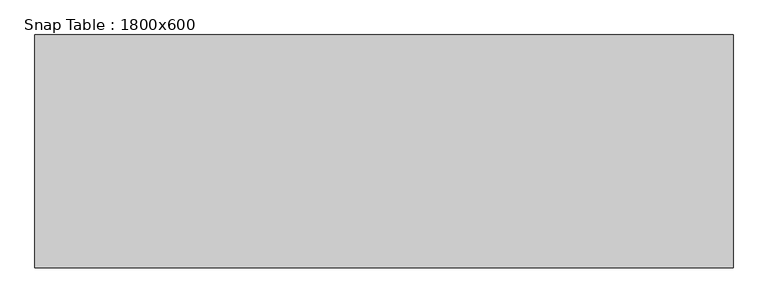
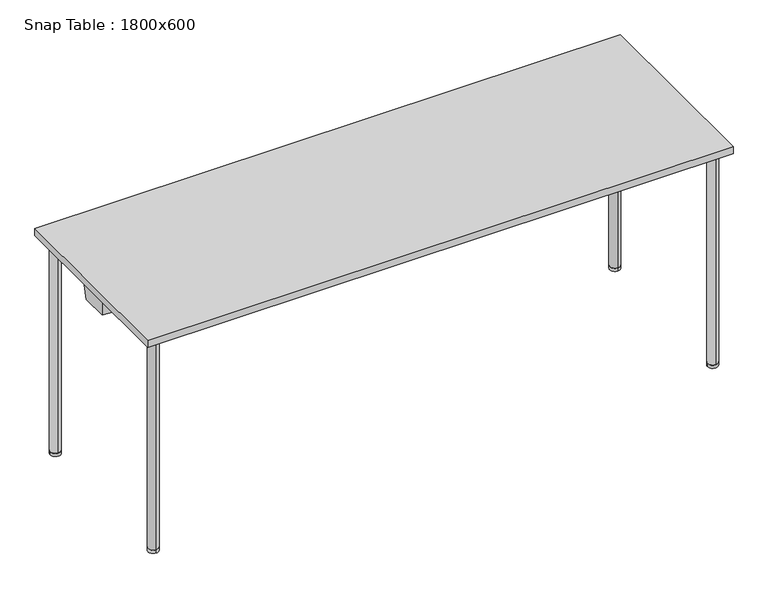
"""IFC4 building model written with IfcOpenShell, lengths in millimetres: furniture geometry, Snap Table : 1800x600."""

import ifcopenshell
import ifcopenshell.guid

model = None  # the IFC model being written
_history = None  # IfcOwnerHistory: only IFC2X3 demands one
_inside = {}  # id of a spatial element -> (the spatial element, [elements in it])
_under = {}  # id of a project, library or spatial element -> (it, [spatial elements below it])
_declared = {}  # id of a project -> (the project, [libraries it declares])
_typed = {}  # id of a type object -> (the type object, [elements of that type])
_made_of = {}  # id of a material, layer set ... -> (it, [elements and type objects made of it])


def new_model(schema):
    """Start an empty IFC model of exactly this schema.

    Asked for "IFC4X3", IfcOpenShell would pick the latest addendum, in which some entities
    have other attributes; the version numbers below select the first issue.
    IFC2X3 requires an IfcOwnerHistory on every rooted entity: one is made here for all.
    """
    global model, _history
    if schema == "IFC4X3":
        model = ifcopenshell.file(schema_version=(4, 3, 0, 0))
    else:
        model = ifcopenshell.file(schema=schema)
    _inside.clear()
    _under.clear()
    _declared.clear()
    _typed.clear()
    _made_of.clear()
    _history = None
    if model.schema == "IFC2X3":
        org = make("IfcOrganization", Name="unknown")
        user = make(
            "IfcPersonAndOrganization",
            ThePerson=make("IfcPerson", FamilyName="unknown"),
            TheOrganization=org,
        )
        app = make(
            "IfcApplication",
            ApplicationDeveloper=org,
            Version="unknown",
            ApplicationFullName="unknown",
            ApplicationIdentifier="unknown",
        )
        _history = make(
            "IfcOwnerHistory",
            OwningUser=user,
            OwningApplication=app,
            ChangeAction="ADDED",
            CreationDate=0,
        )
    return model


def make(cls, **values):
    """One entity of the class cls with the attributes given. An attribute that is None is left unset."""
    return model.create_entity(
        cls, **{name: value for name, value in values.items() if value is not None}
    )


def rooted(cls, **values):
    """An entity with a GlobalId (a new one), such as an element, a storey or a relation."""
    return make(cls, GlobalId=ifcopenshell.guid.new(), OwnerHistory=_history, **values)


def si_unit(unit_type, name, prefix=None):
    """IfcSIUnit, for example si_unit("LENGTHUNIT", "METRE", prefix="MILLI")."""
    return make("IfcSIUnit", UnitType=unit_type, Prefix=prefix, Name=name)


def assignment(units):
    """IfcUnitAssignment: the units of a project."""
    return None if units is None else make("IfcUnitAssignment", Units=units)


def point(xyz):
    """IfcCartesianPoint."""
    return None if xyz is None else make("IfcCartesianPoint", Coordinates=xyz)


def direction(xyz):
    """IfcDirection."""
    return None if xyz is None else make("IfcDirection", DirectionRatios=xyz)


def frame(location, z_axis=None, x_axis=None):
    """IfcAxis2Placement3D, a coordinate frame: its origin and axes. An axis left out is left unset."""
    return make(
        "IfcAxis2Placement3D",
        Location=point(location),
        Axis=direction(z_axis),
        RefDirection=direction(x_axis),
    )


def frame_2d(location, x_axis=None):
    """IfcAxis2Placement2D, a coordinate frame in the plane: its origin and x axis."""
    return make(
        "IfcAxis2Placement2D", Location=point(location), RefDirection=direction(x_axis)
    )


def origin():
    """The frame at (0, 0, 0) with its axes left unset."""
    return frame((0.0, 0.0, 0.0))


def origin_with_axes():
    """The frame at (0, 0, 0) with the z axis (0, 0, 1) and the x axis (1, 0, 0) written out."""
    return frame((0.0, 0.0, 0.0), z_axis=(0.0, 0.0, 1.0), x_axis=(1.0, 0.0, 0.0))


def place(relative_to, where):
    """IfcLocalPlacement: puts the frame where relative to a parent placement (None: the world)."""
    return make(
        "IfcLocalPlacement", PlacementRelTo=relative_to, RelativePlacement=where
    )


def context(
    kind, dimensions, precision=None, world=None, true_north=None, identifier=None
):
    """IfcGeometricRepresentationContext, for example the 3D "Model" context."""
    return make(
        "IfcGeometricRepresentationContext",
        ContextIdentifier=identifier,
        ContextType=kind,
        CoordinateSpaceDimension=dimensions,
        Precision=precision,
        WorldCoordinateSystem=world,
        TrueNorth=true_north,
    )


def project(units=None, contexts=None):
    """IfcProject with its units and contexts."""
    return rooted(
        "IfcProject",
        Name="project",
        RepresentationContexts=contexts,
        UnitsInContext=assignment(units),
    )


def spatial(cls, under=None, at=None, **own):
    """A site, building, storey or space (cls), placed at a placement, below another one or the project."""
    s = rooted(cls, ObjectPlacement=at, **own)
    if under is not None:
        _under.setdefault(under.id(), (under, []))[1].append(s)
    return s


def polyline(points):
    """IfcPolyline through the points."""
    return make("IfcPolyline", Points=[point(p) for p in points])


def circle_curve(where, radius):
    """IfcCircle in the frame where."""
    return make("IfcCircle", Position=where, Radius=radius)


def ellipse_curve(where, semi_axis1, semi_axis2):
    """IfcEllipse in the frame where."""
    return make(
        "IfcEllipse", Position=where, SemiAxis1=semi_axis1, SemiAxis2=semi_axis2
    )


def trimmed(basis, trim1, trim2, sense, master):
    """IfcTrimmedCurve: the piece of a basis curve between two trims."""
    return make(
        "IfcTrimmedCurve",
        BasisCurve=basis,
        Trim1=trim1,
        Trim2=trim2,
        SenseAgreement=sense,
        MasterRepresentation=master,
    )


def segment(curve, same_sense, transition):
    """IfcCompositeCurveSegment."""
    return make(
        "IfcCompositeCurveSegment",
        Transition=transition,
        SameSense=same_sense,
        ParentCurve=curve,
    )


def composite_curve(segments, self_intersect=None):
    """IfcCompositeCurve: segments joined end to end."""
    return make("IfcCompositeCurve", Segments=segments, SelfIntersect=self_intersect)


def outline(outer, holes=None, kind="AREA"):
    """IfcArbitraryClosedProfileDef: a profile drawn as a closed curve; with holes, ...WithVoids."""
    if holes is None:
        return make("IfcArbitraryClosedProfileDef", ProfileType=kind, OuterCurve=outer)
    return make(
        "IfcArbitraryProfileDefWithVoids",
        ProfileType=kind,
        OuterCurve=outer,
        InnerCurves=holes,
    )


def extrude(swept, where, along, depth):
    """IfcExtrudedAreaSolid: the profile swept, set in the frame where, extruded along a direction by depth."""
    return make(
        "IfcExtrudedAreaSolid",
        SweptArea=swept,
        Position=where,
        ExtrudedDirection=direction(along),
        Depth=depth,
    )


def faces_of(points, faces, orient=None, outer=None):
    """IfcFace entities. A face is a list of loops; a loop is a list of indices into points, from 0.

    orient and outer hold one flag for each loop. By default every Orientation is true, the
    first loop of a face is its IfcFaceOuterBound and the others are IfcFaceBound.
    """
    made = []
    for i, loops in enumerate(faces):
        bounds = []
        for j, loop in enumerate(loops):
            is_outer = j == 0 if outer is None else outer[i][j]
            bounds.append(
                make(
                    "IfcFaceOuterBound" if is_outer else "IfcFaceBound",
                    Bound=make("IfcPolyLoop", Polygon=[points[k] for k in loop]),
                    Orientation=True if orient is None else orient[i][j],
                )
            )
        made.append(make("IfcFace", Bounds=bounds))
    return made


def faceted_brep(points, faces, orient=None, outer=None, voids=None):
    """IfcFacetedBrep: a solid bounded by flat faces; with voids (closed shells), ...WithVoids."""
    shared = [point(p) for p in points]
    hull = make("IfcClosedShell", CfsFaces=faces_of(shared, faces, orient, outer))
    if voids is None:
        return make("IfcFacetedBrep", Outer=hull)
    return make(
        "IfcFacetedBrepWithVoids",
        Outer=hull,
        Voids=[
            make(cls, CfsFaces=faces_of(shared, fs, o, b)) for cls, fs, o, b in voids
        ],
    )


def shape(context_of_items, identifier, shape_type, items):
    """IfcShapeRepresentation: the items that make up one representation, for example the "Body"."""
    return make(
        "IfcShapeRepresentation",
        ContextOfItems=context_of_items,
        RepresentationIdentifier=identifier,
        RepresentationType=shape_type,
        Items=items,
    )


def source(mapping_origin, context_of_items, identifier, shape_type, items):
    """IfcRepresentationMap: a shape defined once, which mapped items show again and again."""
    return make(
        "IfcRepresentationMap",
        MappingOrigin=mapping_origin,
        MappedRepresentation=shape(context_of_items, identifier, shape_type, items),
    )


def transform(
    local_origin,
    x_axis=None,
    y_axis=None,
    z_axis=None,
    scale=None,
    scale2=None,
    scale3=None,
    uniform=True,
):
    """IfcCartesianTransformationOperator3D, or its non-uniform kind. x_axis, y_axis, z_axis: its Axis1, 2, 3."""
    if uniform:
        return make(
            "IfcCartesianTransformationOperator3D",
            Axis1=direction(x_axis),
            Axis2=direction(y_axis),
            LocalOrigin=point(local_origin),
            Scale=scale,
            Axis3=direction(z_axis),
        )
    return make(
        "IfcCartesianTransformationOperator3DnonUniform",
        Axis1=direction(x_axis),
        Axis2=direction(y_axis),
        LocalOrigin=point(local_origin),
        Scale=scale,
        Axis3=direction(z_axis),
        Scale2=scale2,
        Scale3=scale3,
    )


def mapped(mapping_source, mapping_target):
    """IfcMappedItem: shows the shape of a source again, moved by a transform."""
    return make(
        "IfcMappedItem", MappingSource=mapping_source, MappingTarget=mapping_target
    )


def made_of(thing, what):
    """Note that an element or type object is made of a material, layer set ...; save() writes the relation."""
    if what is not None:
        _made_of.setdefault(what.id(), (what, []))[1].append(thing)
    return thing


def element(
    cls,
    number,
    at=None,
    inside=None,
    cuts=None,
    type_object=None,
    material=None,
    context=None,
    identifier="Body",
    shape_type=None,
    held_by="IfcProductDefinitionShape",
    body=None,
    shapes=None,
    **own,
):
    """One element of the class cls, such as IfcWall. Its Tag is "e" and its number.

    at: its placement. inside: the storey or other place that contains it. cuts: it is an
    opening in that element (IfcRelVoidsElement). A single representation is given by context,
    identifier, shape_type and body (its items); several are given by shapes. held_by: the class
    of the entity that holds the representations. save() writes the other relations.
    """
    e = rooted(cls, Tag="e%d" % number, ObjectPlacement=at, **own)
    if body is not None:
        shapes = [shape(context, identifier, shape_type, body)]
    if shapes is not None:
        e.Representation = make(held_by, Representations=shapes)
    if inside is not None:
        _inside.setdefault(inside.id(), (inside, []))[1].append(e)
    if cuts is not None:
        rooted(
            "IfcRelVoidsElement", RelatingBuildingElement=cuts, RelatedOpeningElement=e
        )
    if type_object is not None:
        _typed.setdefault(type_object.id(), (type_object, []))[1].append(e)
    return made_of(e, material)


def aggregate(whole, parts):
    """IfcRelAggregates: a whole, such as a stair, and the parts it consists of."""
    return rooted("IfcRelAggregates", RelatingObject=whole, RelatedObjects=parts)


def save(model, path):
    """Write the relations noted so far, then the file.

    IfcRelAggregates (storeys below a building ...), IfcRelContainedInSpatialStructure (elements
    in a storey), IfcRelDefinesByType, IfcRelAssociatesMaterial and IfcRelDeclares: one each for
    every whole, place, type object, material and project.
    """
    for whole, parts in _under.values():
        aggregate(whole, parts)
    for where, things in _inside.values():
        rooted(
            "IfcRelContainedInSpatialStructure",
            RelatedElements=things,
            RelatingStructure=where,
        )
    for kind, things in _typed.values():
        rooted("IfcRelDefinesByType", RelatedObjects=things, RelatingType=kind)
    for what, things in _made_of.values():
        rooted("IfcRelAssociatesMaterial", RelatedObjects=things, RelatingMaterial=what)
    for by, libraries in _declared.values():
        rooted("IfcRelDeclares", RelatingContext=by, RelatedDefinitions=libraries)
    model.write(path)


def plane_surface(at):
    """IfcPlane: the flat surface through the origin of the frame at, square to its z axis."""
    return make("IfcPlane", Position=at)


def cylinder_surface(at, radius):
    """IfcCylindricalSurface: all points at the distance radius from the z axis of the frame at."""
    return make("IfcCylindricalSurface", Position=at, Radius=radius)


def revolved_surface(curve, axis_point, axis_direction):
    """IfcSurfaceOfRevolution: the curve turned about the line through axis_point along axis_direction."""
    return make(
        "IfcSurfaceOfRevolution",
        SweptCurve=make("IfcArbitraryOpenProfileDef", ProfileType="CURVE", Curve=curve),
        AxisPosition=make("IfcAxis1Placement", Location=point(axis_point), Axis=direction(axis_direction)),
    )


def advanced_brep(points, edges, surfaces, faces):
    """IfcAdvancedBrep: a solid bounded by faces that lie on surfaces and meet in shared edges.

    An edge is (start, end): straight between two places in points (the first is 0);
    or (start, end, curve); or (start, end, curve, False) where it runs against its curve.
    A face is (place in surfaces, loops), or (place, loops, False) where it looks against
    its surface's normal. A loop lists edges by number (the first is 1), with a minus sign
    where the edge is run from its end to its start. The first loop is the outer one.
    """
    corners = [point(p) for p in points]
    vertices = [make("IfcVertexPoint", VertexGeometry=c) for c in corners]
    made = []
    for start, end, *more in edges:
        made.append(
            make(
                "IfcEdgeCurve",
                EdgeStart=vertices[start],
                EdgeEnd=vertices[end],
                EdgeGeometry=more[0] if more else make("IfcPolyline", Points=[corners[start], corners[end]]),
                SameSense=more[1] if len(more) > 1 else True,
            )
        )
    hull = []
    for where, loops, *sense in faces:
        bounds = []
        for j, loop in enumerate(loops):
            ring = [make("IfcOrientedEdge", EdgeElement=made[abs(k) - 1], Orientation=k > 0) for k in loop]
            bounds.append(
                make(
                    "IfcFaceOuterBound" if j == 0 else "IfcFaceBound",
                    Bound=make("IfcEdgeLoop", EdgeList=ring),
                    Orientation=True,
                )
            )
        hull.append(make("IfcAdvancedFace", Bounds=bounds, FaceSurface=surfaces[where], SameSense=sense[0] if sense else True))
    return make("IfcAdvancedBrep", Outer=make("IfcClosedShell", CfsFaces=hull))


def snap_table_1800x600_5f449a30(model_context):
    return source(origin(), model_context, "Body", "SolidModel", [
        extrude(outline(composite_curve([segment(trimmed(circle_curve(frame_2d((860.0, -260.0)), 16.0), [point((876.0, -260.0))], [point((844.0, -260.0))], False, "CARTESIAN"), True, "CONTINUOUS"), segment(trimmed(circle_curve(frame_2d((860.0, -260.0)), 16.0), [point((844.0, -260.0))], [point((876.0, -260.0))], False, "CARTESIAN"), True, "CONTINUOUS")], self_intersect=False)), origin_with_axes(), (0.0, 0.0, 1.0), 10.0),
        extrude(outline(composite_curve([segment(trimmed(circle_curve(frame_2d((860.0, 260.0)), 16.0), [point((860.0, 244.0))], [point((860.0, 276.0))], False, "CARTESIAN"), True, "CONTINUOUS"), segment(trimmed(circle_curve(frame_2d((860.0, 260.0)), 16.0), [point((860.0, 276.0))], [point((860.0, 244.0))], False, "CARTESIAN"), True, "CONTINUOUS")], self_intersect=False)), origin_with_axes(), (0.0, 0.0, 1.0), 10.0),
        advanced_brep(
        [(860.0, -276.0, 10.0), (860.0, -244.0, 10.0), (860.0, -276.0, 689.0), (860.0, -244.0, 657.0), (860.0, 276.0, 689.0), (860.0, 244.0, 657.0), (860.0, 276.0, 10.0), (860.0, 244.0, 10.0)],
        [
            (0, 1, circle_curve(frame((860.0, -260.0, 10.0), z_axis=(0.0, 0.0, -1.0), x_axis=(0.0, 1.0, 0.0)), 16.0)),
            (1, 0, circle_curve(frame((860.0, -260.0, 10.0), z_axis=(0.0, 0.0, -1.0), x_axis=(0.0, 1.0, 0.0)), 16.0)),
            (0, 2),
            (2, 3, ellipse_curve(frame((860.0, -260.0, 673.0), z_axis=(0.0, -0.7071067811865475, -0.7071067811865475), x_axis=(0.0, 0.7071067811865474, -0.7071067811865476)), 22.627417, 16.0)),
            (3, 1),
            (3, 2, ellipse_curve(frame((860.0, -260.0, 673.0), z_axis=(0.0, -0.7071067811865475, -0.7071067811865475), x_axis=(0.0, 0.7071067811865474, -0.7071067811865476)), 22.627417, 16.0)),
            (2, 4),
            (4, 5, ellipse_curve(frame((860.0, 260.0, 673.0), z_axis=(0.0, -0.7071067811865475, 0.7071067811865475), x_axis=(0.0, -0.7071067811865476, -0.7071067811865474)), 22.627417, 16.0)),
            (5, 3),
            (5, 4, ellipse_curve(frame((860.0, 260.0, 673.0), z_axis=(0.0, -0.7071067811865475, 0.7071067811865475), x_axis=(0.0, -0.7071067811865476, -0.7071067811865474)), 22.627417, 16.0)),
            (6, 7, circle_curve(frame((860.0, 260.0, 10.0), z_axis=(0.0, 0.0, -1.0), x_axis=(0.0, -1.0, 0.0)), 16.0)),
            (7, 6, circle_curve(frame((860.0, 260.0, 10.0), z_axis=(0.0, 0.0, -1.0), x_axis=(0.0, -1.0, 0.0)), 16.0)),
            (4, 6),
            (7, 5),
        ],
        [
            plane_surface(frame((860.0, -260.0, 10.0), z_axis=(0.0, 0.0, -1.0), x_axis=(-1.0, 0.0, 0.0))),
            cylinder_surface(frame((860.0, -260.0, 10.0), z_axis=(0.0, 0.0, -1.0), x_axis=(0.0, 1.0, 0.0)), 16.0),
            cylinder_surface(frame((860.0, -260.0, 673.0), z_axis=(0.0, -1.0, 0.0), x_axis=(0.0, 0.0, -1.0)), 16.0),
            plane_surface(frame((860.0, 260.0, 10.0), z_axis=(0.0, 0.0, -1.0), x_axis=(-1.0, 0.0, 0.0))),
            cylinder_surface(frame((860.0, 260.0, 673.0), z_axis=(0.0, 0.0, 1.0), x_axis=(0.0, -1.0, 0.0)), 16.0),
        ],
        [
            (0, [[1, 2]]),
            (1, [[-1, 3, 4, 5]]),
            (1, [[-2, -5, 6, -3]]),
            (2, [[-4, 7, 8, 9]]),
            (2, [[-6, -9, 10, -7]]),
            (3, [[11, 12]]),
            (4, [[-8, 13, -12, 14]]),
            (4, [[-10, -14, -11, -13]]),
        ],
    ),
        extrude(outline(composite_curve([segment(trimmed(circle_curve(frame_2d((-860.0470276, 260.0)), 16.0), [point((-876.0470276, 260.0))], [point((-844.0470276, 260.0))], False, "CARTESIAN"), True, "CONTINUOUS"), segment(trimmed(circle_curve(frame_2d((-860.0470276, 260.0)), 16.0), [point((-844.0470276, 260.0))], [point((-876.0470276, 260.0))], False, "CARTESIAN"), True, "CONTINUOUS")], self_intersect=False)), origin_with_axes(), (0.0, 0.0, 1.0), 10.0),
        extrude(outline(composite_curve([segment(trimmed(circle_curve(frame_2d((-860.0470276, -260.0)), 16.0), [point((-860.0470276, -244.0))], [point((-860.0470276, -276.0))], False, "CARTESIAN"), True, "CONTINUOUS"), segment(trimmed(circle_curve(frame_2d((-860.0470276, -260.0)), 16.0), [point((-860.0470276, -276.0))], [point((-860.0470276, -244.0))], False, "CARTESIAN"), True, "CONTINUOUS")], self_intersect=False)), origin_with_axes(), (0.0, 0.0, 1.0), 10.0),
        advanced_brep(
        [(-860.0470276, 276.0, 10.0), (-860.0470276, 244.0, 10.0), (-860.0470276, 276.0, 689.0), (-860.0470276, 244.0, 657.0), (-860.0470276, -276.0, 689.0), (-860.0470276, -244.0, 657.0), (-860.0470276, -276.0, 10.0), (-860.0470276, -244.0, 10.0)],
        [
            (0, 1, circle_curve(frame((-860.0470276, 260.0, 10.0), z_axis=(0.0, 0.0, -1.0), x_axis=(0.0, -1.0, 0.0)), 16.0)),
            (1, 0, circle_curve(frame((-860.0470276, 260.0, 10.0), z_axis=(0.0, 0.0, -1.0), x_axis=(0.0, -1.0, 0.0)), 16.0)),
            (0, 2),
            (2, 3, ellipse_curve(frame((-860.0470276, 260.0, 673.0), z_axis=(0.0, 0.7071067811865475, -0.7071067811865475), x_axis=(0.0, -0.7071067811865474, -0.7071067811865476)), 22.627417, 16.0)),
            (3, 1),
            (3, 2, ellipse_curve(frame((-860.0470276, 260.0, 673.0), z_axis=(0.0, 0.7071067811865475, -0.7071067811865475), x_axis=(0.0, -0.7071067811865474, -0.7071067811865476)), 22.627417, 16.0)),
            (2, 4),
            (4, 5, ellipse_curve(frame((-860.0470276, -260.0, 673.0), z_axis=(0.0, 0.7071067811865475, 0.7071067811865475), x_axis=(0.0, 0.7071067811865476, -0.7071067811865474)), 22.627417, 16.0)),
            (5, 3),
            (5, 4, ellipse_curve(frame((-860.0470276, -260.0, 673.0), z_axis=(0.0, 0.7071067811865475, 0.7071067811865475), x_axis=(0.0, 0.7071067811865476, -0.7071067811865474)), 22.627417, 16.0)),
            (6, 7, circle_curve(frame((-860.0470276, -260.0, 10.0), z_axis=(0.0, 0.0, -1.0), x_axis=(0.0, 1.0, 0.0)), 16.0)),
            (7, 6, circle_curve(frame((-860.0470276, -260.0, 10.0), z_axis=(0.0, 0.0, -1.0), x_axis=(0.0, 1.0, 0.0)), 16.0)),
            (4, 6),
            (7, 5),
        ],
        [
            plane_surface(frame((-860.0470276, 260.0, 10.0), z_axis=(0.0, 0.0, -1.0), x_axis=(1.0, 0.0, 0.0))),
            cylinder_surface(frame((-860.0470276, 260.0, 10.0), z_axis=(0.0, 0.0, -1.0), x_axis=(0.0, -1.0, 0.0)), 16.0),
            cylinder_surface(frame((-860.0470276, 260.0, 673.0), z_axis=(0.0, 1.0, 0.0), x_axis=(0.0, 0.0, -1.0)), 16.0),
            plane_surface(frame((-860.0470276, -260.0, 10.0), z_axis=(0.0, 0.0, -1.0), x_axis=(1.0, 0.0, 0.0))),
            cylinder_surface(frame((-860.0470276, -260.0, 673.0), z_axis=(0.0, 0.0, 1.0), x_axis=(0.0, 1.0, 0.0)), 16.0),
        ],
        [
            (0, [[1, 2]]),
            (1, [[-1, 3, 4, 5]]),
            (1, [[-2, -5, 6, -3]]),
            (2, [[-4, 7, 8, 9]]),
            (2, [[-6, -9, 10, -7]]),
            (3, [[11, 12]]),
            (4, [[-8, 13, -12, 14]]),
            (4, [[-10, -14, -11, -13]]),
        ],
    ),
        extrude(outline(polyline([(900.0, 300.0), (900.0, -300.0), (-900.0, -300.0), (-900.0, 300.0), (900.0, 300.0)])), frame((0.0, 0.0, 698.0), z_axis=(0.0, 0.0, 1.0), x_axis=(1.0, 0.0, 0.0)), (0.0, 0.0, 1.0), 22.0),
        advanced_brep(
        [(-890.8110657, 42.2236058, 643.0), (-857.6910354, 44.5767873, 643.0), (-840.5708933, 36.0824003, 643.0), (840.5710292, 36.0824678, 643.0), (857.6910354, 44.5767873, 643.0), (890.8110657, 42.2236058, 643.0), (890.8110657, -42.2236058, 643.0), (857.6044607, -44.2417031, 643.0), (840.4018781, -36.0497649, 643.0), (-840.4020196, -36.0498323, 643.0), (-857.6044607, -44.2417031, 643.0), (-890.8110657, -42.2236058, 643.0), (-894.8110657, 48.9570516, 698.0), (-894.8110657, -48.9934252, 698.0), (-856.225892, -51.3383995, 698.0), (-834.6205129, -41.049832, 698.0), (834.6203726, -41.0497652, 698.0), (856.225892, -51.3383995, 698.0), (894.8110657, -48.9934252, 698.0), (894.8110657, 48.9570516, 698.0), (856.286594, 51.6942192, 698.0), (834.8989768, 41.0824675, 698.0), (-834.8988421, 41.0824006, 698.0), (-856.286594, 51.6942192, 698.0), (-857.2475737, -46.0789118, 657.2385232), (-876.0, -46.9489596, 673.0), (-856.4614069, -50.125999, 688.6037931), (-844.0, -41.9922101, 673.0), (857.2475737, -46.0789118, 657.2385232), (844.0, -41.9922101, 673.0), (856.4614069, -50.125999, 688.6037931), (876.0, -46.9489596, 673.0), (857.3278029, 46.4175782, 657.2247231), (876.0, 47.1037405, 673.0), (856.5261576, 50.4801582, 688.618336), (844.0, 42.0461233, 673.0), (-857.3278029, 46.4175782, 657.2247231), (-844.0, 42.0461233, 673.0), (-856.5261576, 50.4801582, 688.618336), (-876.0, 47.1037405, 673.0)],
        [
            (0, 1),
            (1, 2),
            (2, 3),
            (3, 4),
            (4, 5),
            (5, 6),
            (6, 7),
            (7, 8),
            (8, 9),
            (9, 10),
            (10, 11),
            (11, 0),
            (12, 13),
            (13, 14),
            (14, 15),
            (15, 16),
            (16, 17),
            (17, 18),
            (18, 19),
            (19, 20),
            (20, 21),
            (21, 22),
            (22, 23),
            (23, 12),
            (11, 13),
            (12, 0),
            (10, 24),
            (24, 25, ellipse_curve(frame((-860.0, -47.9213432, 673.0), z_axis=(0.060176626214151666, 0.9901710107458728, 0.12625427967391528), x_axis=(0.426028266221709, -0.13986196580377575, 0.8938336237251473)), 16.1588249, 16.0)),
            (25, 26, ellipse_curve(frame((-860.0, -47.9213432, 673.0), z_axis=(0.060176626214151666, 0.9901710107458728, 0.12625427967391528), x_axis=(0.426028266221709, -0.13986196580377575, 0.8938336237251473)), 16.1588249, 16.0)),
            (26, 14),
            (9, 15),
            (26, 27, ellipse_curve(frame((-860.0, -49.6114737, 673.0), z_axis=(-0.4265030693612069, 0.8956310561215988, 0.12625427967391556), x_axis=(-0.8587935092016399, -0.44479771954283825, 0.25422174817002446)), 17.8644989, 16.0)),
            (27, 24, ellipse_curve(frame((-860.0, -49.6114737, 673.0), z_axis=(-0.4265030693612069, 0.8956310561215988, 0.12625427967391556), x_axis=(-0.8587935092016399, -0.44479771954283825, 0.25422174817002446)), 17.8644989, 16.0)),
            (8, 16),
            (7, 28),
            (28, 29, ellipse_curve(frame((860.0, -49.6114737, 673.0), z_axis=(0.4265030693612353, 0.8956310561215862, 0.12625427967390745), x_axis=(0.8587935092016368, -0.44479771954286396, 0.2542217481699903)), 17.8644989, 16.0)),
            (29, 30, ellipse_curve(frame((860.0, -49.6114737, 673.0), z_axis=(0.4265030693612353, 0.8956310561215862, 0.12625427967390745), x_axis=(0.8587935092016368, -0.44479771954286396, 0.2542217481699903)), 17.8644989, 16.0)),
            (30, 17),
            (6, 18),
            (30, 31, ellipse_curve(frame((860.0, -47.9213432, 673.0), z_axis=(-0.060176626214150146, 0.9901710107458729, 0.12625427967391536), x_axis=(-0.4260282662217, -0.13986196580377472, 0.8938336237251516)), 16.1588249, 16.0)),
            (31, 28, ellipse_curve(frame((860.0, -47.9213432, 673.0), z_axis=(-0.060176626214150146, 0.9901710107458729, 0.12625427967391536), x_axis=(-0.4260282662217, -0.13986196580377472, 0.8938336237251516)), 16.1588249, 16.0)),
            (5, 19),
            (4, 32),
            (32, 33, ellipse_curve(frame((860.0, 48.2405422, 673.0), z_axis=(-0.07030432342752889, -0.9895034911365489, 0.12625427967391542), x_axis=(0.4813983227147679, -0.14450896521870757, -0.8645072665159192)), 16.1697257, 16.0)),
            (33, 34, ellipse_curve(frame((860.0, 48.2405422, 673.0), z_axis=(-0.07030432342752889, -0.9895034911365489, 0.12625427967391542), x_axis=(0.4813983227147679, -0.14450896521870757, -0.8645072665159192)), 16.1697257, 16.0)),
            (34, 20),
            (3, 21),
            (34, 35, ellipse_curve(frame((860.0, 49.9847369, 673.0), z_axis=(0.4409053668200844, -0.8886294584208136, 0.12625427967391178), x_axis=(-0.8542943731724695, -0.4586258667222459, -0.24462918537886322)), 18.005255, 16.0)),
            (35, 32, ellipse_curve(frame((860.0, 49.9847369, 673.0), z_axis=(0.4409053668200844, -0.8886294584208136, 0.12625427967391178), x_axis=(-0.8542943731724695, -0.4586258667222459, -0.24462918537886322)), 18.005255, 16.0)),
            (2, 22),
            (1, 36),
            (36, 37, ellipse_curve(frame((-860.0, 49.9847369, 673.0), z_axis=(-0.44090536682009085, -0.8886294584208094, 0.12625427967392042), x_axis=(0.8542943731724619, -0.45862586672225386, -0.24462918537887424)), 18.005255, 16.0)),
            (37, 38, ellipse_curve(frame((-860.0, 49.9847369, 673.0), z_axis=(-0.44090536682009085, -0.8886294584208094, 0.12625427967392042), x_axis=(0.8542943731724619, -0.45862586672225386, -0.24462918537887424)), 18.005255, 16.0)),
            (38, 23),
            (38, 39, ellipse_curve(frame((-860.0, 48.2405422, 673.0), z_axis=(0.07030432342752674, -0.9895034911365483, 0.12625427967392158), x_axis=(-0.48139832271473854, -0.14450896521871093, -0.8645072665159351)), 16.1697257, 16.0)),
            (39, 36, ellipse_curve(frame((-860.0, 48.2405422, 673.0), z_axis=(0.07030432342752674, -0.9895034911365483, 0.12625427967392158), x_axis=(-0.48139832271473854, -0.14450896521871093, -0.8645072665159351)), 16.1697257, 16.0)),
            (35, 29),
            (31, 33),
            (39, 25),
            (27, 37),
        ],
        [
            plane_surface(frame((-5e-07, 0.0612866, 643.0), z_axis=(0.0, 0.0, -1.0), x_axis=(0.0, -1.0, 0.0))),
            plane_surface(frame((-5e-07, 0.0586803, 698.0), z_axis=(0.0, 0.0, 1.0), x_axis=(0.0, -1.0, 0.0))),
            plane_surface(frame((-894.8110657, -0.0181868, 698.0), z_axis=(-0.9973658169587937, 0.0, -0.07253569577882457), x_axis=(0.0, 1.0, 0.0))),
            plane_surface(frame((-875.5184789, -50.1659123, 698.0), z_axis=(-0.060176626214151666, -0.9901710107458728, -0.12625427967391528), x_axis=(-0.9981583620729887, 0.06066204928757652, 0.0))),
            plane_surface(frame((-845.4232025, -46.1941158, 698.0), z_axis=(0.4265030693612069, -0.8956310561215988, -0.12625427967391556), x_axis=(-0.9028557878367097, -0.4299435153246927, 0.0))),
            plane_surface(frame((-7.01e-05, -41.0497986, 698.0), z_axis=(3.994004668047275e-08, -0.9958932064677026, -0.09053574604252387), x_axis=(-0.9999999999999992, -4.010474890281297e-08, 0.0))),
            plane_surface(frame((845.4231323, -46.1940824, 698.0), z_axis=(-0.4265030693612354, -0.8956310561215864, -0.12625427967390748), x_axis=(-0.9028557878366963, 0.42994351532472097, 0.0))),
            plane_surface(frame((875.5184789, -50.1659123, 698.0), z_axis=(0.060176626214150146, -0.9901710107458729, -0.12625427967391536), x_axis=(-0.9981583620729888, -0.06066204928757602, 0.0))),
            plane_surface(frame((894.8110657, -0.0181868, 698.0), z_axis=(0.997365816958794, 0.0, -0.07253569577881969), x_axis=(0.0, -1.0, 0.0))),
            plane_surface(frame((875.5488298, 50.3256354, 698.0), z_axis=(0.07030432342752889, 0.9895034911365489, -0.12625427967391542), x_axis=(0.9974854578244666, -0.07087144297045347, 0.0))),
            plane_surface(frame((845.5927854, 46.3883433, 698.0), z_axis=(-0.4409053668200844, 0.8886294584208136, -0.12625427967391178), x_axis=(0.8957977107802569, 0.44446199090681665, 0.0))),
            plane_surface(frame((6.73e-05, 41.082434, 698.0), z_axis=(-3.994255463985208e-08, 0.9958932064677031, -0.0905357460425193), x_axis=(0.9999999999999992, 4.010726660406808e-08, 0.0))),
            plane_surface(frame((-845.5927181, 46.3883099, 698.0), z_axis=(0.44090536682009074, 0.8886294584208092, -0.1262542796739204), x_axis=(0.8957977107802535, -0.4444619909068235, 0.0))),
            plane_surface(frame((-875.5488298, 50.3256354, 698.0), z_axis=(-0.07030432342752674, 0.9895034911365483, -0.12625427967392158), x_axis=(0.9974854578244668, 0.07087144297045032, 0.0))),
            revolved_surface(polyline([(876.0, -57.55756207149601, 673.0), (876.0, 58.242412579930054, 673.0)]), (860.0, 70.0, 673.0), (0.0, -1.0, 0.0)),
            revolved_surface(polyline([(-876.0, -57.55756207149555, 673.0), (-876.0, 58.242412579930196, 673.0)]), (-860.0, 70.0, 673.0), (0.0, -1.0, 0.0)),
        ],
        [
            (0, [[1, 2, 3, 4, 5, 6, 7, 8, 9, 10, 11, 12]]),
            (1, [[13, 14, 15, 16, 17, 18, 19, 20, 21, 22, 23, 24]]),
            (2, [[-12, 25, -13, 26]]),
            (3, [[-11, 27, 28, 29, 30, -14, -25]]),
            (4, [[-10, 31, -15, -30, 32, 33, -27]]),
            (5, [[-9, 34, -16, -31]]),
            (6, [[-8, 35, 36, 37, 38, -17, -34]]),
            (7, [[-7, 39, -18, -38, 40, 41, -35]]),
            (8, [[-6, 42, -19, -39]]),
            (9, [[-5, 43, 44, 45, 46, -20, -42]]),
            (10, [[-4, 47, -21, -46, 48, 49, -43]]),
            (11, [[-3, 50, -22, -47]]),
            (12, [[-2, 51, 52, 53, 54, -23, -50]]),
            (13, [[-1, -26, -24, -54, 55, 56, -51]]),
            (14, [[57, -36, -41, 58, -44, -49]]),
            (14, [[-57, -48, -45, -58, -40, -37]]),
            (15, [[59, -28, -33, 60, -52, -56]]),
            (15, [[-59, -55, -53, -60, -32, -29]]),
        ],
    ),
        faceted_brep([(830.1271057, 182.1409864, 643.0), (830.1271057, 227.0366315, 643.0), (841.3990784, 227.0366315, 643.0), (841.3990784, 182.1409864, 643.0), (826.2186584, 178.0138349, 688.0), (844.2631531, 178.0138349, 688.0), (844.2631531, 231.163783, 688.0), (826.2186584, 231.163783, 688.0)], [[[0, 1, 2, 3]], [[4, 5, 6, 7]], [[5, 4, 0, 3]], [[6, 5, 3, 2]], [[7, 6, 2, 1]], [[4, 7, 1, 0]]]),
        extrude(outline(polyline([(826.2186584, 231.163783), (877.86026, 231.163783), (877.86026, 178.0138349), (826.2186584, 178.0138349), (826.2186584, 231.163783)])), frame((0.0, 0.0, 688.0), z_axis=(0.0, 0.0, 1.0), x_axis=(1.0, 0.0, 0.0)), (0.0, 0.0, 1.0), 10.0),
        faceted_brep([(830.1271057, -182.1409864, 643.0), (841.3990784, -182.1409864, 643.0), (841.3990784, -227.0366315, 643.0), (830.1271057, -227.0366315, 643.0), (826.2186584, -178.0138349, 688.0), (826.2186584, -231.163783, 688.0), (844.2631531, -231.163783, 688.0), (844.2631531, -178.0138349, 688.0)], [[[0, 1, 2, 3]], [[4, 5, 6, 7]], [[4, 7, 1, 0]], [[7, 6, 2, 1]], [[6, 5, 3, 2]], [[5, 4, 0, 3]]]),
        extrude(outline(polyline([(826.2186584, -231.163783), (826.2186584, -178.0138349), (877.86026, -178.0138349), (877.86026, -231.163783), (826.2186584, -231.163783)])), frame((0.0, 0.0, 688.0), z_axis=(0.0, 0.0, 1.0), x_axis=(1.0, 0.0, 0.0)), (0.0, 0.0, 1.0), 10.0),
        faceted_brep([(-830.1271057, 182.1409864, 643.0), (-841.3990784, 182.1409864, 643.0), (-841.3990784, 227.0366315, 643.0), (-830.1271057, 227.0366315, 643.0), (-826.2186584, 178.0138349, 688.0), (-826.2186584, 231.163783, 688.0), (-844.2631531, 231.163783, 688.0), (-844.2631531, 178.0138349, 688.0)], [[[0, 1, 2, 3]], [[4, 5, 6, 7]], [[4, 7, 1, 0]], [[7, 6, 2, 1]], [[6, 5, 3, 2]], [[5, 4, 0, 3]]]),
        extrude(outline(polyline([(-826.2186584, 231.163783), (-826.2186584, 178.0138349), (-877.86026, 178.0138349), (-877.86026, 231.163783), (-826.2186584, 231.163783)])), frame((0.0, 0.0, 688.0), z_axis=(0.0, 0.0, 1.0), x_axis=(1.0, 0.0, 0.0)), (0.0, 0.0, 1.0), 10.0),
        faceted_brep([(-830.1271057, -182.1409864, 643.0), (-830.1271057, -227.0366315, 643.0), (-841.3990784, -227.0366315, 643.0), (-841.3990784, -182.1409864, 643.0), (-826.2186584, -178.0138349, 688.0), (-844.2631531, -178.0138349, 688.0), (-844.2631531, -231.163783, 688.0), (-826.2186584, -231.163783, 688.0)], [[[0, 1, 2, 3]], [[4, 5, 6, 7]], [[5, 4, 0, 3]], [[6, 5, 3, 2]], [[7, 6, 2, 1]], [[4, 7, 1, 0]]]),
        extrude(outline(polyline([(-826.2186584, -231.163783), (-877.86026, -231.163783), (-877.86026, -178.0138349), (-826.2186584, -178.0138349), (-826.2186584, -231.163783)])), frame((0.0, 0.0, 688.0), z_axis=(0.0, 0.0, 1.0), x_axis=(1.0, 0.0, 0.0)), (0.0, 0.0, 1.0), 10.0),
    ])


if __name__ == "__main__":
    model = new_model("IFC4")
    model_context = context("Model", 3, world=origin())
    ifc_project = project(units=[si_unit("LENGTHUNIT", "METRE", prefix="MILLI")], contexts=[model_context])
    site = spatial("IfcSite", under=ifc_project)
    building = spatial("IfcBuilding", under=site)
    placement = place(None, origin())
    snap_table_1800x600_shape = snap_table_1800x600_5f449a30(model_context)
    element("IfcFurniture", 1, ObjectType="Snap Table : 1800x600", at=placement, inside=building, context=model_context, shape_type="MappedRepresentation", body=[
        mapped(snap_table_1800x600_shape, transform((0.0, 0.0, 0.0), x_axis=(1.0, 0.0, 0.0), y_axis=(0.0, 1.0, 0.0), z_axis=(0.0, 0.0, 1.0))),
    ])
    save(model, "model.ifc")
